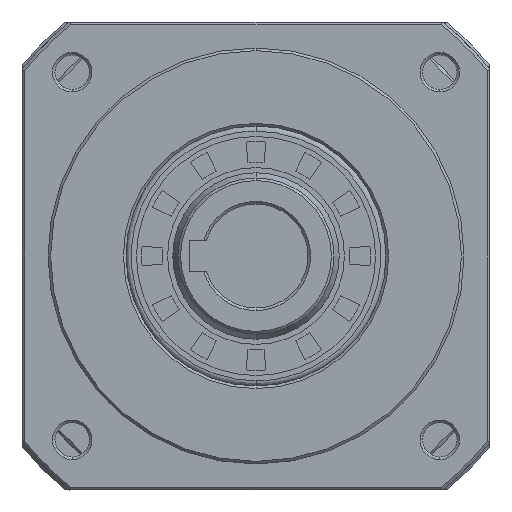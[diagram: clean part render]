
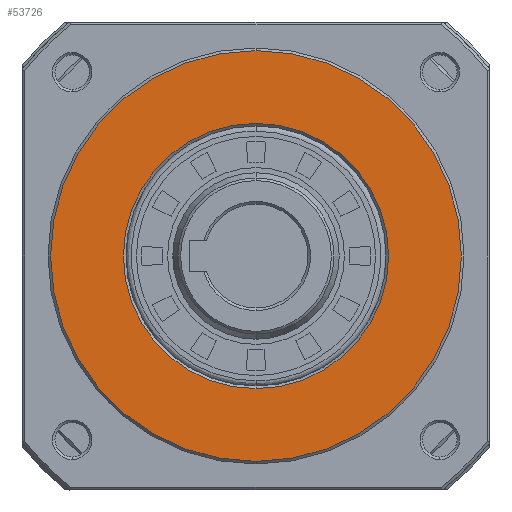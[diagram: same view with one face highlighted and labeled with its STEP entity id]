
A CAD part, left-side view. The second image highlights one B-rep face of the part: STEP entity #53726.
In plain terms, the highlighted planar face has unit normal (-1, 0, 0).
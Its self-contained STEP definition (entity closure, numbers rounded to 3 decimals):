
#489 = CARTESIAN_POINT ( 'NONE',  ( 0., 0., 0. ) ) ;
#988 = ORIENTED_EDGE ( 'NONE', *, *, #17468, .F. ) ;
#4800 = VERTEX_POINT ( 'NONE', #33712 ) ;
#5163 = FACE_OUTER_BOUND ( 'NONE', #14641, .T. ) ;
#6206 = CARTESIAN_POINT ( 'NONE',  ( 0., 0., -25.5 ) ) ;
#6720 = DIRECTION ( 'NONE',  ( 1., 0., 0. ) ) ;
#6762 = CIRCLE ( 'NONE', #28159, 39.5 ) ;
#14641 = EDGE_LOOP ( 'NONE', ( #54525, #988 ) ) ;
#17468 = EDGE_CURVE ( 'NONE', #23076, #4800, #24623, .T. ) ;
#18310 = DIRECTION ( 'NONE',  ( 1., 0., 0. ) ) ;
#20405 = CARTESIAN_POINT ( 'NONE',  ( 0., 0., 39.5 ) ) ;
#23076 = VERTEX_POINT ( 'NONE', #20405 ) ;
#23655 = EDGE_CURVE ( 'NONE', #77486, #82245, #65420, .T. ) ;
#24623 = CIRCLE ( 'NONE', #71316, 39.5 ) ;
#25671 = CARTESIAN_POINT ( 'NONE',  ( 0., -39.974, 39.974 ) ) ;
#25881 = DIRECTION ( 'NONE',  ( 0., 0., 1. ) ) ;
#28159 = AXIS2_PLACEMENT_3D ( 'NONE', #43703, #77889, #84670 ) ;
#33712 = CARTESIAN_POINT ( 'NONE',  ( 0., 0., -39.5 ) ) ;
#38553 = EDGE_CURVE ( 'NONE', #82245, #77486, #82463, .T. ) ;
#40786 = AXIS2_PLACEMENT_3D ( 'NONE', #25671, #18310, #80590 ) ;
#41377 = DIRECTION ( 'NONE',  ( 1., 0., 0. ) ) ;
#43703 = CARTESIAN_POINT ( 'NONE',  ( 0., 0., 0. ) ) ;
#45852 = CARTESIAN_POINT ( 'NONE',  ( 0., 0., 0. ) ) ;
#48273 = DIRECTION ( 'NONE',  ( 0., 0., -1. ) ) ;
#48399 = EDGE_LOOP ( 'NONE', ( #74114, #61862 ) ) ;
#53726 = ADVANCED_FACE ( 'NONE', ( #83776, #5163 ), #59324, .F. ) ;
#54236 = CARTESIAN_POINT ( 'NONE',  ( 0., 0., 0. ) ) ;
#54525 = ORIENTED_EDGE ( 'NONE', *, *, #73199, .F. ) ;
#59130 = AXIS2_PLACEMENT_3D ( 'NONE', #489, #6720, #80905 ) ;
#59324 = PLANE ( 'NONE',  #40786 ) ;
#61862 = ORIENTED_EDGE ( 'NONE', *, *, #23655, .T. ) ;
#65420 = CIRCLE ( 'NONE', #59130, 25.5 ) ;
#66364 = DIRECTION ( 'NONE',  ( 1., 0., 0. ) ) ;
#71316 = AXIS2_PLACEMENT_3D ( 'NONE', #54236, #41377, #48273 ) ;
#73199 = EDGE_CURVE ( 'NONE', #4800, #23076, #6762, .T. ) ;
#74114 = ORIENTED_EDGE ( 'NONE', *, *, #38553, .T. ) ;
#77486 = VERTEX_POINT ( 'NONE', #6206 ) ;
#77889 = DIRECTION ( 'NONE',  ( 1., 0., 0. ) ) ;
#80590 = DIRECTION ( 'NONE',  ( 0., 0., -1. ) ) ;
#80905 = DIRECTION ( 'NONE',  ( 0., 0., 1. ) ) ;
#81424 = AXIS2_PLACEMENT_3D ( 'NONE', #45852, #66364, #25881 ) ;
#82245 = VERTEX_POINT ( 'NONE', #86944 ) ;
#82463 = CIRCLE ( 'NONE', #81424, 25.5 ) ;
#83776 = FACE_BOUND ( 'NONE', #48399, .T. ) ;
#84670 = DIRECTION ( 'NONE',  ( 0., 0., -1. ) ) ;
#86944 = CARTESIAN_POINT ( 'NONE',  ( 0., 0., 25.5 ) ) ;
